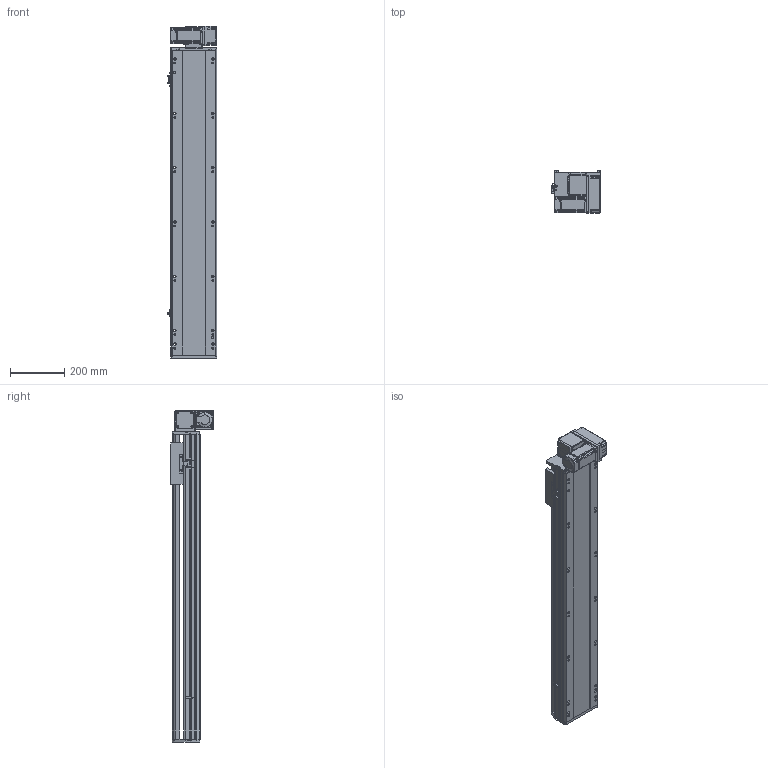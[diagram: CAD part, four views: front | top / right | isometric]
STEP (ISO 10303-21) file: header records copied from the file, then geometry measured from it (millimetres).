
FILE_DESCRIPTION (( 'STEP AP214' ), '1' );
FILE_NAME ('RTB17S-XX-850-RM-M40-C4.STEP', '2025-12-11T08:15:27', ( '' ), ( '' ), 'SwSTEP 2.0', 'SolidWorks 2018', '' );
FILE_SCHEMA (( 'AUTOMOTIVE_DESIGN' ));
Length unit declared in the file: millimetre
Products named in the file (14): RTB17S-L-014-T20--々湍釱^RTB17S-RM-々湍釱蚾饜-400W_RTB17S-XX-XX-RM-M40-C4; RTB17S-L-001耜醱啣^RTB17S-XX-XX-RM-M40-C4; 400W侜督萇儂^RTB17S-XX-XX-RM-M40-C4; RTB17S-L-004佪裝蹟譫蟀諉釱^RTB17S-XX-XX-RM-M40-C4; RTB14-L-017P^RTB17S-RM-々湍釱蚾饜-400W_RTB17S-XX-XX-RM-M40-C4; RTB17-R-011菁釱^RTB17S-XX-XX-RM-M40-C4; RTB14-L-008-M20--萇儂啣^RTB17S-RM-々湍釱蚾饜-400W_RTB17S-XX-XX-RM-M40-C4; RTB14-L-018P^RTB17S-RM-々湍釱蚾饜-400W_RTB17S-XX-XX-RM-M40-C4; RTB14-L-005P--轴承塑胶压盖^RTB17S-RM-皮带座装配-400W_RTB17S-XX-XX-RM-M40-C4; RTB17S-RM-々湍釱蚾饜-400W^RTB17S-XX-XX-RM-M40-C4; OMRON EE-SX672 传感器^RTB17S-XX-XX-RM-M40-C4; RTB17S-XX-850-RM-M40-C4; RTH13-BL-012覜茼え俋离^RTB17S-XX-XX-RM-M40-C4; RTB17S-L-007奻裔^RTB17S-XX-XX-RM-M40-C4
Assembly tree (16 placements, depth 3):
  RTB17S-XX-850-RM-M40-C4
    RTB17-R-011菁釱^RTB17S-XX-XX-RM-M40-C4
    RTB17S-L-007奻裔^RTB17S-XX-XX-RM-M40-C4
    OMRON EE-SX672 传感器^RTB17S-XX-XX-RM-M40-C4  x3
    RTB17S-L-001耜醱啣^RTB17S-XX-XX-RM-M40-C4
    400W侜督萇儂^RTB17S-XX-XX-RM-M40-C4
    RTB17S-L-004佪裝蹟譫蟀諉釱^RTB17S-XX-XX-RM-M40-C4
    RTH13-BL-012覜茼え俋离^RTB17S-XX-XX-RM-M40-C4
    RTB17S-RM-々湍釱蚾饜-400W^RTB17S-XX-XX-RM-M40-C4
      RTB17S-L-014-T20--々湍釱^RTB17S-RM-々湍釱蚾饜-400W_RTB17S-XX-XX-RM-M40-C4
      RTB14-L-005P--轴承塑胶压盖^RTB17S-RM-皮带座装配-400W_RTB17S-XX-XX-RM-M40-C4
      RTB14-L-008-M20--萇儂啣^RTB17S-RM-々湍釱蚾饜-400W_RTB17S-XX-XX-RM-M40-C4
      RTB14-L-017P^RTB17S-RM-々湍釱蚾饜-400W_RTB17S-XX-XX-RM-M40-C4  x2
      RTB14-L-018P^RTB17S-RM-々湍釱蚾饜-400W_RTB17S-XX-XX-RM-M40-C4
Bounding box: 183.5 x 156.5 x 1222.5 mm (x, y, z)
Volume: 11145888.7 mm3; surface area: 1366469.8 mm2
Topology: 15 solids, 15 shells, 2205 faces, 6087 edges, 3969 vertices
Faces by surface type: plane 1068, cylinder 689, bspline 301, cone 139, torus 8
Entity records: 62633 total; most frequent: CARTESIAN_POINT 17492, ORIENTED_EDGE 9018, DIRECTION 8396, EDGE_CURVE 4509, VERTEX_POINT 2957, AXIS2_PLACEMENT_3D 2887, VECTOR 2622, LINE 2622
